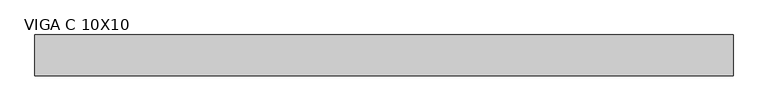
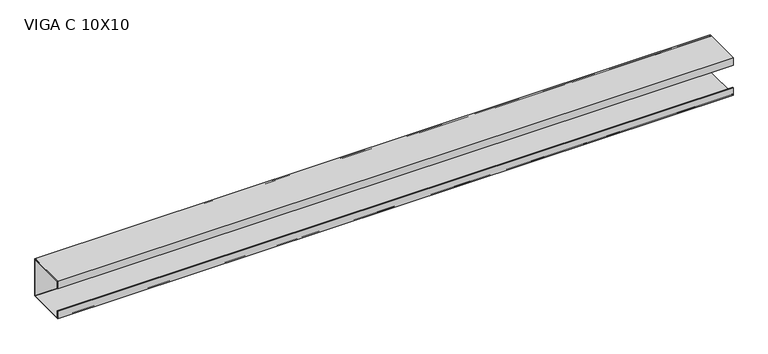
"""IFC4 building model written with IfcOpenShell, lengths in millimetres: beam geometry, VIGA PERFIL C AÇO : VIGA C 10X10."""

from ifc_helpers import new_model, si_unit, point, frame, frame_2d, origin, place, context, project, spatial, polyline, circle_curve, trimmed, segment, composite_curve, outline, extrude, source, transform, mapped, element, save


def viga_c_10x10_0e119602(model_context):
    return source(origin(), model_context, "Body", "SweptSolid", [
        extrude(outline(polyline([(9.2, -50.0), (-90.8, -50.0), (-90.8, -30.0), (-88.9, -30.0), (-88.9, -48.1), (7.3, -48.1), (7.3, 48.1), (-88.9, 48.1), (-88.9, 30.0), (-90.8, 30.0), (-90.8, 50.0), (9.2, 50.0), (9.2, -50.0)])), frame((-830.5, 0.0, 0.0), z_axis=(1.0, 0.0, 0.0), x_axis=(0.0, 1.0, 0.0)), (0.0, 0.0, 1.0), 1706.0),
        extrude(outline(composite_curve([segment(trimmed(circle_curve(frame_2d((5.4, -46.2)), 3.8), [point((9.2, -46.2))], [point((5.4, -50.0))], False, "CARTESIAN"), True, "CONTINUOUS"), segment(polyline([(5.4, -50.0), (-87.0, -50.0)]), True, "CONTINUOUS"), segment(trimmed(circle_curve(frame_2d((-87.0, -46.2)), 3.8), [point((-87.0, -50.0))], [point((-90.8, -46.2))], False, "CARTESIAN"), True, "CONTINUOUS"), segment(polyline([(-90.8, -46.2), (-90.8, -30.0), (-88.9, -30.0), (-88.9, -46.2)]), True, "CONTINUOUS"), segment(trimmed(circle_curve(frame_2d((-87.0, -46.2)), 1.9), [point((-88.9, -46.2))], [point((-87.0, -48.1))], True, "CARTESIAN"), True, "CONTINUOUS"), segment(polyline([(-87.0, -48.1), (5.4, -48.1)]), True, "CONTINUOUS"), segment(trimmed(circle_curve(frame_2d((5.4, -46.2)), 1.9), [point((5.4, -48.1))], [point((7.3, -46.2))], True, "CARTESIAN"), True, "CONTINUOUS"), segment(polyline([(7.3, -46.2), (7.3, 46.2)]), True, "CONTINUOUS"), segment(trimmed(circle_curve(frame_2d((5.4, 46.2)), 1.9), [point((7.3, 46.2))], [point((5.4, 48.1))], True, "CARTESIAN"), True, "CONTINUOUS"), segment(polyline([(5.4, 48.1), (-87.0, 48.1)]), True, "CONTINUOUS"), segment(trimmed(circle_curve(frame_2d((-87.0, 46.2)), 1.9), [point((-87.0, 48.1))], [point((-88.9, 46.2))], True, "CARTESIAN"), True, "CONTINUOUS"), segment(polyline([(-88.9, 46.2), (-88.9, 30.0), (-90.8, 30.0), (-90.8, 46.2)]), True, "CONTINUOUS"), segment(trimmed(circle_curve(frame_2d((-87.0, 46.2)), 3.8), [point((-90.8, 46.2))], [point((-87.0, 50.0))], False, "CARTESIAN"), True, "CONTINUOUS"), segment(polyline([(-87.0, 50.0), (5.4, 50.0)]), True, "CONTINUOUS"), segment(trimmed(circle_curve(frame_2d((5.4, 46.2)), 3.8), [point((5.4, 50.0))], [point((9.2, 46.2))], False, "CARTESIAN"), True, "CONTINUOUS"), segment(polyline([(9.2, 46.2), (9.2, -46.2)]), True, "CONTINUOUS")], self_intersect=False)), frame((-830.5, 0.0, 0.0), z_axis=(1.0, 0.0, 0.0), x_axis=(0.0, 1.0, 0.0)), (0.0, 0.0, 1.0), 1706.0),
    ])


if __name__ == "__main__":
    model = new_model("IFC4")
    model_context = context("Model", 3, world=origin())
    ifc_project = project(units=[si_unit("LENGTHUNIT", "METRE", prefix="MILLI")], contexts=[model_context])
    site = spatial("IfcSite", under=ifc_project)
    building = spatial("IfcBuilding", under=site)
    placement = place(None, origin())
    viga_c_10x10_shape = viga_c_10x10_0e119602(model_context)
    element("IfcBeam", 1, ObjectType="VIGA PERFIL C AÇO : VIGA C 10X10", at=placement, inside=building, context=model_context, shape_type="MappedRepresentation", body=[
        mapped(viga_c_10x10_shape, transform((0.0, 0.0, 0.0), x_axis=(1.0, 0.0, 0.0), y_axis=(0.0, 1.0, 0.0), z_axis=(0.0, 0.0, 1.0))),
    ])
    save(model, "model.ifc")
